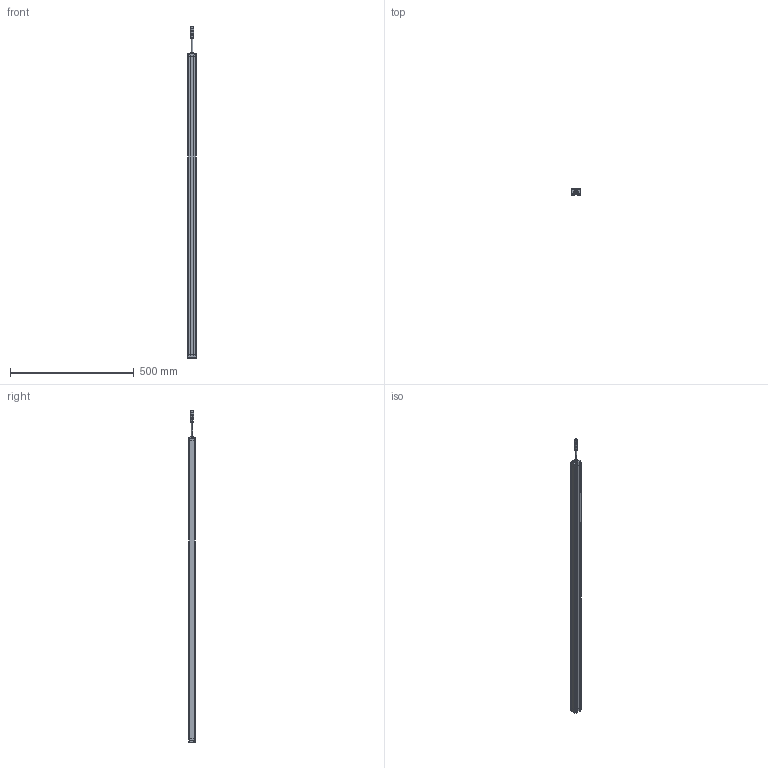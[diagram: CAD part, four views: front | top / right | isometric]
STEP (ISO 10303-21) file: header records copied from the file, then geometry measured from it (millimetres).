
FILE_DESCRIPTION((''),'2;1');
FILE_NAME('SMT1-CGQ_ASM','2025-08-08T08:40:56',('Administrator'),(''),'CREO PARAMETRIC BY PTC INC, 2016510','CREO PARAMETRIC BY PTC INC, 2016510','');
FILE_SCHEMA(('CONFIG_CONTROL_DESIGN'));
Length unit declared in the file: millimetre
Products named in the file (7): SMT1-XINGCAI-V1; SMT1-SDG-V1; SMT1-XDG-V1; M12-CHATOU; ST3X18; CT4-LVGUANGBAN; SMT1-CGQ_ASM
Assembly tree (13 placements, depth 2):
  SMT1-CGQ_ASM
    SMT1-XINGCAI-V1
    SMT1-SDG-V1
    SMT1-XDG-V1
    M12-CHATOU
    ST3X18  x8
    CT4-LVGUANGBAN
Bounding box: 33 x 28.02 x 1339.5 mm (x, y, z)
Volume: 952183.7 mm3; surface area: 305875.3 mm2
Topology: 13 solids, 13 shells, 712 faces, 1868 edges, 1200 vertices
Faces by surface type: plane 382, cylinder 184, extrusion 86, sphere 32, cone 20, bspline 8
Entity records: 18128 total; most frequent: CARTESIAN_POINT 4347, ORIENTED_EDGE 2916, DIRECTION 2580, EDGE_CURVE 1458, VECTOR 1036, VERTEX_POINT 955, LINE 950, AXIS2_PLACEMENT_3D 772
